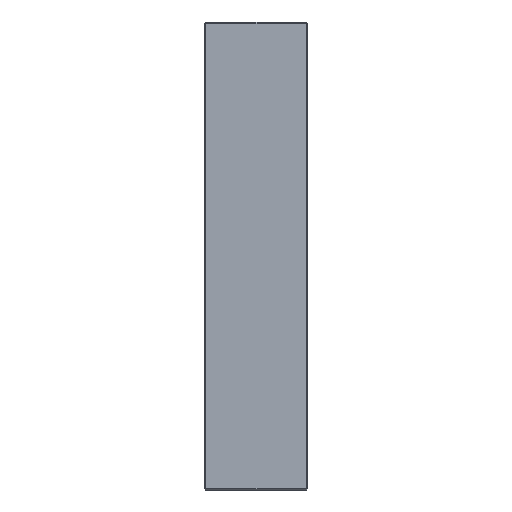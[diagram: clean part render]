
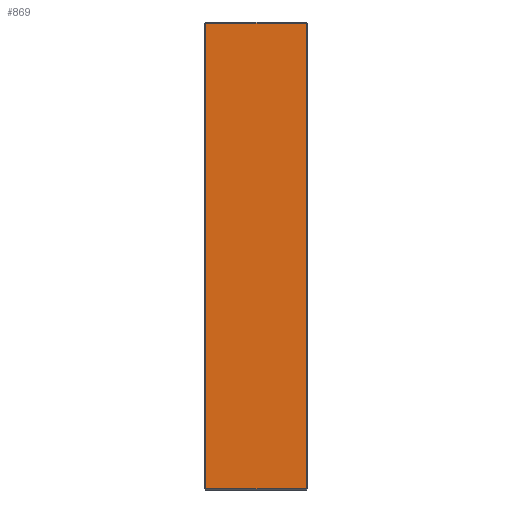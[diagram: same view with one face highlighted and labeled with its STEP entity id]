
A CAD part, left-side view. The second image highlights one B-rep face of the part: STEP entity #869.
In plain terms, the highlighted planar face has unit normal (-1, 0, 0).
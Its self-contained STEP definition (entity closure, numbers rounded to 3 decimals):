
#44 = DIRECTION ( 'NONE',  ( 0., 0., 1. ) ) ;
#75 = EDGE_CURVE ( 'NONE', #705, #1746, #1480, .T. ) ;
#97 = ORIENTED_EDGE ( 'NONE', *, *, #256, .T. ) ;
#99 = DIRECTION ( 'NONE',  ( 0., 1., 0. ) ) ;
#101 = DIRECTION ( 'NONE',  ( 0., 0., -1. ) ) ;
#195 = CARTESIAN_POINT ( 'NONE',  ( -173., 1., 173. ) ) ;
#256 = EDGE_CURVE ( 'NONE', #1620, #2034, #1024, .T. ) ;
#336 = EDGE_LOOP ( 'NONE', ( #644, #898, #97, #1590 ) ) ;
#388 = CARTESIAN_POINT ( 'NONE',  ( -173., 1., 172. ) ) ;
#644 = ORIENTED_EDGE ( 'NONE', *, *, #75, .T. ) ;
#661 = VECTOR ( 'NONE', #44, 1000. ) ;
#705 = VERTEX_POINT ( 'NONE', #388 ) ;
#869 = ADVANCED_FACE ( 'NONE', ( #1036 ), #1820, .F. ) ;
#898 = ORIENTED_EDGE ( 'NONE', *, *, #1803, .T. ) ;
#1024 = LINE ( 'NONE', #2728, #2718 ) ;
#1036 = FACE_OUTER_BOUND ( 'NONE', #336, .T. ) ;
#1115 = DIRECTION ( 'NONE',  ( 0., 0., -1. ) ) ;
#1150 = CARTESIAN_POINT ( 'NONE',  ( -173., 75., 173. ) ) ;
#1244 = DIRECTION ( 'NONE',  ( 0., -1., 0. ) ) ;
#1382 = CARTESIAN_POINT ( 'NONE',  ( -173., 75., 172. ) ) ;
#1466 = CARTESIAN_POINT ( 'NONE',  ( -173., 75., -172. ) ) ;
#1480 = LINE ( 'NONE', #2031, #2553 ) ;
#1590 = ORIENTED_EDGE ( 'NONE', *, *, #1980, .T. ) ;
#1594 = DIRECTION ( 'NONE',  ( 1., 0., 0. ) ) ;
#1620 = VERTEX_POINT ( 'NONE', #1466 ) ;
#1746 = VERTEX_POINT ( 'NONE', #1382 ) ;
#1755 = LINE ( 'NONE', #1150, #2249 ) ;
#1803 = EDGE_CURVE ( 'NONE', #1746, #1620, #1755, .T. ) ;
#1820 = PLANE ( 'NONE',  #2411 ) ;
#1858 = LINE ( 'NONE', #195, #661 ) ;
#1980 = EDGE_CURVE ( 'NONE', #2034, #705, #1858, .T. ) ;
#2031 = CARTESIAN_POINT ( 'NONE',  ( -173., 76., 172. ) ) ;
#2034 = VERTEX_POINT ( 'NONE', #2741 ) ;
#2249 = VECTOR ( 'NONE', #1115, 1000. ) ;
#2411 = AXIS2_PLACEMENT_3D ( 'NONE', #2672, #1594, #101 ) ;
#2553 = VECTOR ( 'NONE', #99, 1000. ) ;
#2672 = CARTESIAN_POINT ( 'NONE',  ( -173., 76., 173. ) ) ;
#2718 = VECTOR ( 'NONE', #1244, 1000. ) ;
#2728 = CARTESIAN_POINT ( 'NONE',  ( -173., 76., -172. ) ) ;
#2741 = CARTESIAN_POINT ( 'NONE',  ( -173., 1., -172. ) ) ;
